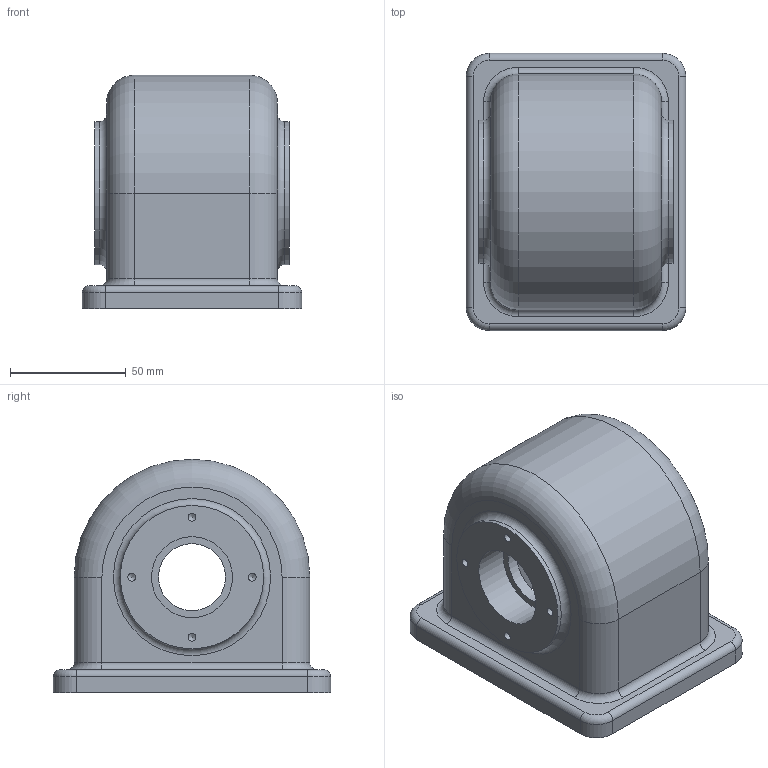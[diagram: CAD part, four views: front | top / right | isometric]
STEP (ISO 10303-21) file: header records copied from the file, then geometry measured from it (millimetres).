
FILE_DESCRIPTION((''),'2;1');
FILE_NAME('C:\Users\05-01\Desktop\07-21\본체.stp','2018-07-21T16:59:45',('05-01'),(''),'Autodesk Inventor 2013','Autodesk Inventor 2013','');
FILE_SCHEMA(('AUTOMOTIVE_DESIGN { 1 0 10303 214 1 1 1 1 }'));
Length unit declared in the file: millimetre
Products named in the file (1): 본체
Bounding box: 95 x 120 x 101 mm (x, y, z)
Volume: 344948 mm3; surface area: 77423.1 mm2
Topology: 1 solids, 1 shells, 87 faces, 190 edges, 113 vertices
Faces by surface type: cylinder 38, plane 20, torus 16, cone 13
Full cylindrical faces by diameter (mm): 3.459 x8, 29 x2, 35 x2, 62 x4
Entity records: 2172 total; most frequent: DIRECTION 422, CARTESIAN_POINT 342, ORIENTED_EDGE 298, AXIS2_PLACEMENT_3D 185, EDGE_CURVE 149, EDGE_LOOP 132, VERTEX_POINT 105, CIRCLE 97
